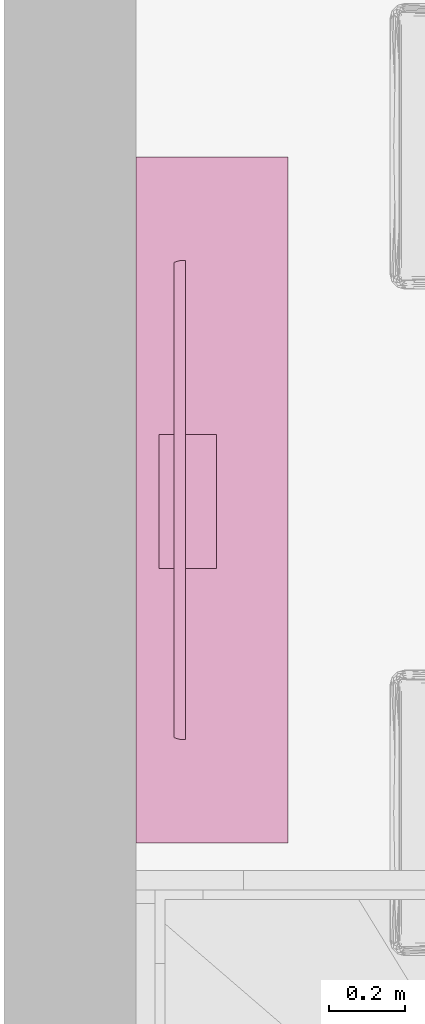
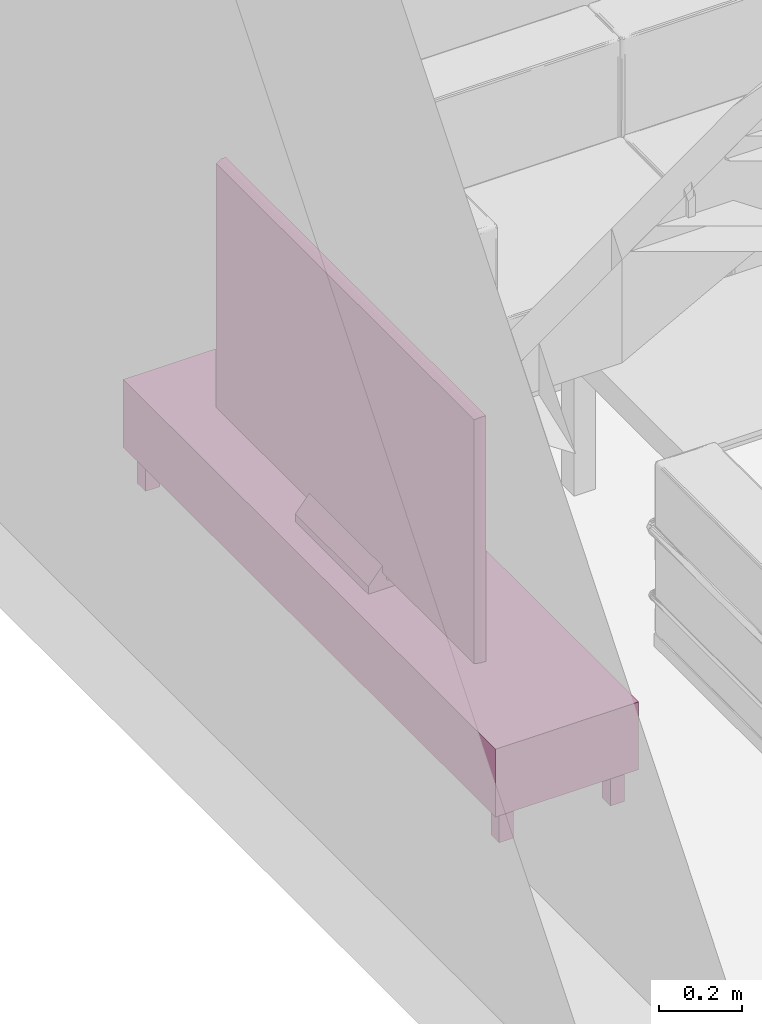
# One storey, part 36 of 65: 1 furnishing.
"""IFC2X3 building model written with IfcOpenShell, lengths in millimetres."""

from ifc_helpers import new_model, entity, si_unit, converted_unit, direction, frame, origin, place, context, subcontext, project, spatial, faceted_brep, source, transform, mapped, material, material_list, type_object, type_shapes, element, save


model = new_model("IFC2X3")

# Units and contexts
model_context = context("Model", 3, precision=0.01, world=origin(), true_north=direction((0.0, 1.0)))
body_context = subcontext(model_context, "Body", "Model", "MODEL_VIEW")
ifc_project = project(units=[si_unit("LENGTHUNIT", "METRE", prefix="MILLI"), si_unit("AREAUNIT", "SQUARE_METRE"), si_unit("VOLUMEUNIT", "CUBIC_METRE"), converted_unit("PLANEANGLEUNIT", "DEGREE", entity("IfcPlaneAngleMeasure", 0.017453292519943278), si_unit("PLANEANGLEUNIT", "RADIAN"), dimensions=[0, 0, 0, 0, 0, 0, 0])], contexts=[model_context])

# Site, building, storey, space
site_placement = place(None, origin())
site = spatial("IfcSite", under=ifc_project, at=site_placement, Name="Default", CompositionType="ELEMENT")
building_placement = place(site_placement, origin())
building = spatial("IfcBuilding", under=site, at=building_placement, CompositionType="ELEMENT")
storey_placement = place(building_placement, origin())
storey = spatial("IfcBuildingStorey", under=building, at=storey_placement, Name="Et. 1", CompositionType="ELEMENT", Elevation=0.0)
space_placement = place(storey_placement, origin())
space = spatial("IfcSpace", under=storey, at=space_placement, Name="101", CompositionType="ELEMENT", InteriorOrExteriorSpace="INTERNAL")

# Furnishing
ifc_material_1 = material(Name="Focus - TV - Sort")
ifc_material_2 = material(Name="Focus - Metall - Krom")
ifc_material_3 = material(Name="Focus - Møbler - Hvit")
ifc_material_list = material_list([ifc_material_1, ifc_material_2, ifc_material_3])
furniture_type = type_object("IfcFurnitureType", Name="TV bord (1):TV bord 1800x400x300", AssemblyPlace="NOTDEFINED", material=ifc_material_list)
shared_shape = source(origin(), body_context, "Body", "Brep", [
    faceted_brep([(535.1044252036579, 528.5550193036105, 322.4792366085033), (535.1044252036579, 526.6842377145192, 323.47298199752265), (535.1044252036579, 525.9363454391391, 325.45490298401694), (535.1044252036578, 525.9363454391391, 370.0), (535.1044252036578, 513.9363454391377, 370.0), (535.1044252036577, 474.47496908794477, 322.83260995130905), (535.1044252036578, 474.47496908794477, 300.0), (535.1044252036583, 625.9363454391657, 300.0), (535.1044252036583, 625.9363454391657, 310.0), (182.12411793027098, 474.47496908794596, 322.83260995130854), (182.12411793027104, 513.9363454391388, 370.0), (182.12411793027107, 525.9363454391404, 370.0), (182.12411793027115, 525.9363454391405, 325.4549029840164), (182.12411793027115, 526.6842377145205, 323.4729819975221), (182.12411793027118, 528.5550193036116, 322.47923660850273), (182.12411793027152, 625.9363454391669, 310.0), (182.12411793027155, 625.9363454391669, 300.0), (182.124117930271, 474.47496908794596, 300.0), (519.984899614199, 525.9363454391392, 325.454902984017), (504.86537605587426, 525.9363454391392, 325.45490298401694), (490.9818870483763, 525.9363454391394, 325.45490298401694), (468.92061695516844, 525.9363454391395, 325.4549029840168), (446.8593468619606, 525.9363454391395, 325.4549029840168), (424.7980767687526, 525.9363454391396, 325.45490298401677), (402.73680870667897, 525.9363454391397, 325.45490298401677), (380.67554064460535, 525.9363454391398, 325.45490298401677), (358.6142705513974, 525.9363454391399, 325.45490298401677), (344.73078154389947, 525.9363454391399, 325.4549029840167), (330.84729050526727, 525.9363454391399, 325.45490298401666), (316.963799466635, 525.9363454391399, 325.45490298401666), (303.0803104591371, 525.93634543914, 325.45490298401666), (287.9607869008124, 525.9363454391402, 325.45490298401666), (272.84126334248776, 525.9363454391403, 325.45490298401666), (257.72173978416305, 525.9363454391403, 325.4549029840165), (242.60221419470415, 525.9363454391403, 325.4549029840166), (227.48268860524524, 525.9363454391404, 325.4549029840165), (212.36316504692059, 525.9363454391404, 325.4549029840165), (197.24364148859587, 525.9363454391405, 325.4549029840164), (197.24364190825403, 528.5550193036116, 322.47923660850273), (212.36316595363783, 528.5550193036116, 322.4792366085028), (227.4826899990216, 528.5550193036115, 322.4792366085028), (242.60221397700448, 528.5550193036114, 322.4792366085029), (257.72173795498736, 528.5550193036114, 322.4792366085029), (272.8412620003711, 528.5550193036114, 322.4792366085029), (287.96078604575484, 528.5550193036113, 322.47923660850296), (303.08031002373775, 528.5550193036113, 322.47923660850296), (318.1998340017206, 528.5550193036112, 322.47923660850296), (333.31935804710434, 528.5550193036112, 322.479236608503), (348.43888209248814, 528.5550193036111, 322.479236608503), (363.558406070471, 528.5550193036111, 322.479236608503), (378.6779300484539, 528.5550193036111, 322.4792366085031), (393.7974540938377, 528.555019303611, 322.47923660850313), (408.9169781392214, 528.555019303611, 322.47923660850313), (424.03650211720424, 528.5550193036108, 322.47923660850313), (437.91999249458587, 528.5550193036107, 322.47923660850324), (451.80348287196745, 528.5550193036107, 322.47923660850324), (465.6869732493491, 528.5550193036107, 322.4792366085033), (479.57046362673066, 528.5550193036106, 322.4792366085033), (493.4539540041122, 528.5550193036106, 322.4792366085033), (507.3374443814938, 528.5550193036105, 322.4792366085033), (519.984901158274, 528.5550193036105, 322.47923660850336), (337.68066245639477, 526.6430406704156, 323.52080028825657), (224.27890068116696, 526.6842377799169, 323.47298192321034), (204.80340727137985, 526.6842378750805, 323.4729818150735), (302.46229687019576, 526.7687345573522, 323.3809061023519), (287.96078948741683, 526.6842377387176, 323.47298197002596), (519.6968558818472, 526.6842377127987, 323.47298199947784), (239.91619314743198, 526.6842377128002, 323.4729819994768), (413.76744661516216, 526.6599675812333, 323.5009060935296), (397.7173638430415, 526.6694903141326, 323.4898666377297), (371.11817041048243, 526.6334825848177, 323.5321906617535), (441.27558772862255, 526.8083203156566, 323.34030867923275), (481.02976280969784, 526.5444504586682, 323.6441466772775), (497.92363261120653, 526.7462141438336, 323.40470179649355), (316.9638042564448, 526.6842377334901, 323.47298197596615), (458.7452292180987, 526.6028547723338, 323.56947960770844), (257.72174274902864, 526.6842376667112, 323.4729820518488), (354.04763371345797, 526.7922136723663, 323.35664204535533), (272.84126613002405, 526.6581872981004, 323.5029820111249)], [[[0, 1, 2, 3, 4, 5, 6, 7, 8]], [[9, 10, 11, 12, 13, 14, 15, 16, 17]], [[4, 3, 11, 10]], [[7, 6, 17, 16]], [[3, 2, 18, 19, 20, 21, 22, 23, 24, 25, 26, 27, 28, 29, 30, 31, 32, 33, 34, 35, 36, 37, 12, 11]], [[5, 4, 10, 9]], [[6, 5, 9, 17]], [[8, 7, 16, 15]], [[0, 8, 15, 14, 38, 39, 40, 41, 42, 43, 44, 45, 46, 47, 48, 49, 50, 51, 52, 53, 54, 55, 56, 57, 58, 59, 60]], [[61, 48, 47]], [[62, 63, 36]], [[30, 64, 65]], [[13, 12, 37]], [[18, 2, 1, 66, 19]], [[34, 67, 35]], [[68, 52, 69]], [[70, 69, 50]], [[68, 23, 71]], [[72, 20, 73]], [[62, 39, 63]], [[19, 73, 20]], [[29, 28, 74, 30]], [[31, 30, 65]], [[75, 56, 55]], [[57, 56, 72, 58]], [[44, 43, 65]], [[42, 41, 76, 43]], [[62, 35, 67]], [[13, 37, 63]], [[66, 1, 0, 60, 59]], [[38, 14, 13]], [[41, 40, 67]], [[67, 34, 76]], [[73, 58, 72]], [[63, 39, 38]], [[63, 38, 13]], [[40, 39, 62]], [[67, 40, 62]], [[72, 21, 20]], [[19, 66, 73]], [[49, 77, 70]], [[75, 55, 71]], [[75, 72, 56]], [[21, 72, 75]], [[75, 22, 21]], [[22, 75, 71]], [[68, 24, 23]], [[54, 53, 71, 55]], [[23, 22, 71]], [[37, 36, 63]], [[69, 24, 68]], [[53, 68, 71]], [[70, 26, 25]], [[49, 70, 50]], [[69, 70, 25]], [[25, 24, 69]], [[50, 69, 52, 51]], [[26, 70, 77]], [[61, 28, 27]], [[77, 48, 61]], [[27, 26, 77]], [[77, 49, 48]], [[68, 53, 52]], [[73, 59, 58]], [[76, 33, 78]], [[65, 43, 78]], [[41, 67, 76]], [[46, 45, 74, 47]], [[62, 36, 35]], [[47, 74, 61]], [[73, 66, 59]], [[77, 61, 27]], [[28, 61, 74]], [[74, 45, 64]], [[33, 32, 31, 78]], [[74, 64, 30]], [[76, 34, 33]], [[45, 44, 64]], [[65, 64, 44]], [[76, 78, 43]], [[65, 78, 31]]]),
    faceted_brep([(-274.1123280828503, 543.9363454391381, 1074.9426906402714), (-254.11232808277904, 543.936345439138, 1054.9426906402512), (-254.11232808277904, 543.936345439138, 370.0), (963.4518429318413, 543.9363454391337, 1054.942690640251), (-274.1123280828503, 543.9363454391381, 350.0), (983.45184293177, 543.9363454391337, 1074.9426906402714), (963.4518429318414, 543.9363454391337, 370.0), (983.45184293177, 543.9363454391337, 350.0), (871.2987961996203, 513.9363454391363, 1069.700820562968), (764.3876072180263, 513.9363454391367, 1069.700820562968), (657.4764182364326, 513.9363454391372, 1069.700820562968), (550.5652415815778, 513.9363454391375, 1069.700820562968), (452.61750258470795, 513.9363454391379, 1069.700820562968), (354.6697512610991, 513.9363454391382, 1069.700820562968), (276.7272251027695, 513.9363454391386, 1069.700820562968), (198.78469894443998, 513.9363454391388, 1069.700820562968), (120.84217278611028, 513.936345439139, 1069.700820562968), (42.8996466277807, 513.9363454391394, 1069.700820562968), (-35.042879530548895, 513.9363454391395, 1069.7008205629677), (-112.98540568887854, 513.9363454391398, 1069.700820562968), (-161.959281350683, 513.93634543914, 1069.700820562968), (-268.870458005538, 513.9363454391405, 1069.7008205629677), (-268.87045800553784, 513.9363454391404, 962.7896420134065), (-268.87045800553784, 513.9363454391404, 855.8784560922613), (-268.87045800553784, 513.9363454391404, 782.864436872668), (-268.87045800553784, 513.9363454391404, 709.850410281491), (-268.87045800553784, 513.9363454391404, 619.8878077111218), (-268.87045800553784, 513.9363454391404, 529.9252051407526), (-268.87045800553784, 513.9363454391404, 456.9111859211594), (-268.870458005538, 513.9363454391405, 350.0), (978.2099728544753, 513.936345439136, 350.0), (978.2099728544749, 513.9363454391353, 456.91117949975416), (978.2099728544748, 513.9363454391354, 563.8223660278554), (978.2099728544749, 513.9363454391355, 670.7335525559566), (978.209972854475, 513.9363454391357, 777.6447320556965), (978.209972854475, 513.9363454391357, 850.658757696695), (978.209972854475, 513.9363454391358, 923.6727763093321), (978.209972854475, 513.936345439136, 1016.245227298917), (978.2099728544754, 513.936345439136, 1069.700820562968), (983.45184293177, 540.9363454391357, 1074.9426906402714), (-274.1123280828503, 540.9363454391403, 1074.9426906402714), (-274.11232808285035, 530.9363454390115, 1074.9426906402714), (-167.20113860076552, 530.9363454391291, 1074.9426906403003), (-72.97496770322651, 530.9363454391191, 1074.942690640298), (27.593712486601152, 530.9363454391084, 1074.9426906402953), (128.16239267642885, 530.9363454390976, 1074.942690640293), (235.07358215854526, 530.9363454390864, 1074.9426906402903), (288.52916869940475, 530.9363454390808, 1074.942690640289), (341.98475524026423, 530.9363454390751, 1074.9426906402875), (448.89592832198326, 530.9363454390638, 1074.942690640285), (555.8071178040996, 530.9363454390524, 1074.942690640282), (662.7183072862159, 530.936345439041, 1074.9426906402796), (769.6294803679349, 530.9363454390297, 1074.9426906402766), (876.5406534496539, 530.9363454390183, 1074.942690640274), (983.45184293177, 530.9363454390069, 1074.9426906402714), (983.45184293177, 540.9363454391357, 350.0), (983.4518429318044, 530.9363454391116, 968.0315073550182), (983.4518429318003, 530.9363454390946, 893.7070161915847), (983.4518429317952, 530.936345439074, 803.0891825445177), (983.4518429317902, 530.9363454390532, 712.4713488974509), (983.451842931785, 530.9363454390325, 621.8535152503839), (983.45184293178, 530.9363454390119, 531.2356744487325), (983.4518429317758, 530.9363454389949, 456.911183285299), (983.45184293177, 530.9363454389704, 350.0), (981.0831520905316, 522.3585671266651, 350.0), (-271.7436372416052, 522.3585671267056, 350.0), (-274.1123280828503, 530.9363454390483, 350.0), (-274.1123280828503, 540.9363454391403, 350.0), (-274.1123280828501, 530.9363454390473, 403.4555910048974), (-274.1123280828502, 530.9363454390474, 498.64897772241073), (-274.11232808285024, 530.9363454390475, 572.973466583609), (-274.11232808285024, 530.9363454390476, 647.2979554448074), (-274.1123280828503, 530.9363454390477, 754.2091446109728), (-274.1123280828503, 530.9363454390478, 861.120326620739), (-274.1123280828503, 530.9363454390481, 968.0315086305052), (-254.11232808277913, 540.9363454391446, 1054.9426906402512), (963.4518429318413, 540.9363454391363, 1054.942690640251), (963.4518429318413, 540.9363454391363, 370.0), (-254.1123280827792, 540.9363454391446, 370.0), (-271.6079802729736, 521.9209899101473, 561.039955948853), (-272.0942324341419, 523.5120302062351, 807.6647388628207), (-271.6838000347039, 522.1649725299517, 1000.2475796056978), (-271.52856035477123, 521.6669815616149, 493.4181930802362), (-271.74968537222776, 522.3781866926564, 731.6126583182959), (-271.4604584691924, 521.4504221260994, 664.869113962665), (-271.64314636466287, 522.0339695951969, 424.4548075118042), (-272.03175870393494, 523.3040303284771, 936.0688543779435), (-271.7208591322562, 522.2847625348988, 871.778613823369), (-271.7425576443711, 522.3550660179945, 1072.5729202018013), (-204.66446821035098, 523.3287969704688, 1072.8695772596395), (-137.47234325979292, 522.5092649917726, 1072.6203800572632), (908.7567322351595, 522.1649725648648, 1072.5141626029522), (833.778825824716, 522.5817361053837, 1072.6426227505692), (-62.80278335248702, 522.0049948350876, 1072.4644995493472), (159.81344423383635, 522.0845569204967, 1072.4892230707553), (226.4217047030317, 521.9934399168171, 1072.4609048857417), (315.25696952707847, 521.9504164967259, 1072.4475115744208), (981.0820724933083, 522.3550660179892, 1072.5729202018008), (80.1835543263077, 522.8422800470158, 1072.7222575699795), (501.59138676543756, 522.559214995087, 1072.6357149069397), (392.4883252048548, 522.952944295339, 1072.7559254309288), (3.928384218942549, 521.850551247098, 1072.4163685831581), (566.2823689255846, 522.2857797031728, 1072.5515358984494), (646.0692239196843, 522.4365461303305, 1072.5980210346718), (710.9320272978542, 522.0760981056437, 1072.4865968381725), (772.290516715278, 522.6133420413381, 1072.6523106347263), (981.0831519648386, 522.3585667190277, 494.0734241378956), (981.2237700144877, 522.8172109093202, 560.7957970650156), (981.2987228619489, 523.0638411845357, 930.8692618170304), (981.2065184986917, 522.7606600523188, 863.377909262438), (981.1904531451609, 522.7080691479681, 998.9721352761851), (980.8231085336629, 521.5238622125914, 630.1745518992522), (981.0101229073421, 522.122416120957, 696.939627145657), (981.0709396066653, 522.318980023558, 422.0367118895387), (981.0159296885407, 522.1411428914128, 798.4273735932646)], [[[0, 1, 2]], [[1, 0, 3]], [[2, 4, 0]], [[5, 3, 0]], [[3, 5, 6]], [[7, 6, 5]], [[6, 7, 4]], [[4, 2, 6]], [[8, 9, 10, 11, 12, 13, 14, 15, 16, 17, 18, 19, 20, 21, 22, 23, 24, 25, 26, 27, 28, 29, 30, 31, 32, 33, 34, 35, 36, 37, 38]], [[39, 5, 0, 40, 41, 42, 43, 44, 45, 46, 47, 48, 49, 50, 51, 52, 53, 54]], [[55, 7, 5, 39, 54, 56, 57, 58, 59, 60, 61, 62, 63]], [[4, 7, 55, 63, 64, 30, 29, 65, 66, 67]], [[40, 0, 4, 67, 66, 68, 69, 70, 71, 72, 73, 74, 41]], [[75, 76, 77, 78]], [[3, 76, 75, 1]], [[2, 1, 75, 78]], [[2, 78, 77, 6]], [[6, 77, 76, 3]], [[69, 79, 71, 70]], [[80, 73, 72]], [[41, 74, 81]], [[82, 28, 27]], [[83, 71, 84]], [[79, 82, 27]], [[82, 85, 28]], [[86, 73, 87]], [[41, 81, 88]], [[72, 83, 80]], [[82, 79, 69]], [[73, 80, 87]], [[81, 21, 88]], [[68, 66, 65]], [[29, 28, 85]], [[82, 69, 85]], [[85, 69, 68]], [[84, 26, 25]], [[68, 65, 85]], [[29, 85, 65]], [[27, 26, 79]], [[79, 26, 84]], [[83, 84, 25]], [[79, 84, 71]], [[83, 24, 80]], [[71, 83, 72]], [[86, 81, 74]], [[87, 80, 23]], [[23, 22, 87]], [[22, 81, 86]], [[24, 83, 25]], [[24, 23, 80]], [[21, 81, 22]], [[73, 86, 74]], [[22, 86, 87]], [[42, 89, 90]], [[54, 53, 91]], [[8, 91, 92]], [[18, 93, 19]], [[46, 45, 94]], [[95, 96, 47]], [[19, 90, 20]], [[54, 91, 97]], [[98, 16, 94]], [[99, 12, 11]], [[99, 49, 100]], [[18, 17, 101]], [[46, 94, 95]], [[18, 101, 93]], [[102, 99, 11]], [[103, 102, 10]], [[52, 51, 104]], [[92, 9, 8]], [[91, 38, 97]], [[21, 20, 89]], [[41, 88, 89]], [[90, 89, 20]], [[43, 42, 90]], [[41, 89, 42]], [[44, 101, 98]], [[101, 43, 93]], [[89, 88, 21]], [[12, 99, 100]], [[96, 100, 48]], [[98, 101, 17]], [[43, 101, 44]], [[16, 15, 94]], [[44, 98, 45]], [[98, 17, 16]], [[43, 90, 93]], [[19, 93, 90]], [[94, 15, 95]], [[98, 94, 45]], [[96, 48, 47]], [[46, 95, 47]], [[95, 15, 14]], [[96, 95, 14]], [[14, 13, 96]], [[100, 96, 13]], [[12, 100, 13]], [[49, 48, 100]], [[10, 104, 103]], [[50, 49, 99]], [[9, 92, 105]], [[9, 104, 10]], [[103, 104, 51]], [[51, 50, 103]], [[102, 50, 99]], [[92, 91, 53]], [[38, 91, 8]], [[53, 52, 92]], [[105, 52, 104]], [[10, 102, 11]], [[103, 50, 102]], [[9, 105, 104]], [[92, 52, 105]], [[106, 61, 107]], [[108, 109, 57]], [[61, 106, 62]], [[108, 110, 36]], [[97, 110, 54]], [[111, 60, 112]], [[97, 38, 37]], [[113, 106, 31]], [[56, 108, 57]], [[109, 108, 36]], [[106, 107, 32]], [[63, 62, 113]], [[30, 64, 113]], [[106, 113, 62]], [[36, 110, 37]], [[32, 31, 106]], [[30, 113, 31]], [[113, 64, 63]], [[108, 56, 110]], [[114, 112, 59]], [[109, 114, 58]], [[36, 35, 109]], [[54, 110, 56]], [[97, 37, 110]], [[114, 35, 34]], [[58, 57, 109]], [[61, 60, 107]], [[112, 33, 111]], [[111, 32, 107]], [[111, 107, 60]], [[112, 60, 59]], [[32, 111, 33]], [[114, 59, 58]], [[34, 33, 112]], [[35, 114, 109]], [[112, 114, 34]]]),
    faceted_brep([(1229.6697574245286, 438.9363454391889, 0.0), (1229.6697574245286, 478.9363454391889, 0.0), (1229.6697574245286, 478.9363454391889, 80.0), (1229.669757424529, 748.9363454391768, 80.0), (1229.669757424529, 748.9363454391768, 0.0), (1229.669757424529, 788.9363454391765, 0.0), (1229.669757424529, 788.9363454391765, 100.0), (1229.6697574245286, 438.9363454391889, 100.0), (1189.6697574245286, 438.936345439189, 0.0), (1189.6697574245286, 438.936345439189, 100.0), (1189.669757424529, 788.9363454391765, 100.0), (1189.669757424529, 788.9363454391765, 0.0), (1189.669757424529, 748.9363454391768, 0.0), (1189.669757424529, 748.9363454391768, 80.0), (1189.6697574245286, 478.936345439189, 80.0), (1189.6697574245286, 478.936345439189, 0.0)], [[[0, 1, 2, 3, 4, 5, 6, 7]], [[8, 9, 10, 11, 12, 13, 14, 15]], [[1, 0, 8, 15]], [[2, 1, 15, 14]], [[3, 2, 14, 13]], [[4, 3, 13, 12]], [[5, 4, 12, 11]], [[6, 5, 11, 10]], [[7, 6, 10, 9]], [[0, 7, 9, 8]]]),
    faceted_brep([(-480.33024257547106, 438.9363454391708, 0.0), (-480.330242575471, 478.93634543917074, 0.0), (-480.330242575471, 478.93634543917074, 80.0), (-480.33024257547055, 748.9363454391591, 80.0), (-480.33024257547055, 748.9363454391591, 0.0), (-480.3302425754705, 788.9363454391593, 0.0), (-480.3302425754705, 788.9363454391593, 100.0), (-480.33024257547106, 438.9363454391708, 100.0), (-520.3302425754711, 438.93634543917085, 0.0), (-520.3302425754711, 438.93634543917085, 100.0), (-520.3302425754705, 788.9363454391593, 100.0), (-520.3302425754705, 788.9363454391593, 0.0), (-520.3302425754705, 748.9363454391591, 0.0), (-520.3302425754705, 748.9363454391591, 80.0), (-520.330242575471, 478.93634543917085, 80.0), (-520.330242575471, 478.93634543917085, 0.0)], [[[0, 1, 2, 3, 4, 5, 6, 7]], [[8, 9, 10, 11, 12, 13, 14, 15]], [[1, 0, 8, 15]], [[2, 1, 15, 14]], [[3, 2, 14, 13]], [[4, 3, 13, 12]], [[5, 4, 12, 11]], [[6, 5, 11, 10]], [[7, 6, 10, 9]], [[0, 7, 9, 8]]]),
    faceted_brep([(1189.6697574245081, 478.9363454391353, 80.0), (-480.3302425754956, 478.9363454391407, 80.0), (-480.3302425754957, 478.9363454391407, 100.0), (1189.6697574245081, 478.9363454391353, 100.0), (1189.669757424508, 438.9363454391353, 80.0), (1189.669757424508, 438.9363454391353, 100.0), (-480.3302425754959, 438.9363454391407, 100.0), (-480.33024257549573, 438.9363454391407, 80.0)], [[[0, 1, 2, 3]], [[4, 5, 6, 7]], [[1, 0, 4, 7]], [[2, 1, 7, 6]], [[3, 2, 6, 5]], [[0, 3, 5, 4]]]),
    faceted_brep([(1189.6697574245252, 788.9363454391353, 80.0), (-480.33024257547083, 788.9363454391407, 80.0), (-480.3302425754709, 788.9363454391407, 100.0), (1189.6697574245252, 788.9363454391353, 100.0), (1189.6697574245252, 748.9363454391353, 80.0), (1189.6697574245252, 748.9363454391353, 100.0), (-480.330242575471, 748.9363454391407, 100.0), (-480.330242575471, 748.9363454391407, 80.0)], [[[0, 1, 2, 3]], [[4, 5, 6, 7]], [[1, 0, 4, 7]], [[2, 1, 7, 6]], [[3, 2, 6, 5]], [[0, 3, 5, 4]]]),
    faceted_brep([(658.003090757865, 813.9363454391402, 150.0), (628.003090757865, 813.9363454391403, 150.0), (628.003090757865, 813.9363454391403, 250.0), (658.003090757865, 813.9363454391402, 250.0), (658.0030907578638, 423.93634543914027, 150.0), (658.0030907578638, 423.93634543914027, 250.0), (628.0030907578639, 423.9363454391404, 250.0), (628.0030907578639, 423.9363454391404, 150.0)], [[[0, 1, 2, 3]], [[4, 5, 6, 7]], [[1, 0, 4, 7]], [[2, 1, 7, 6]], [[3, 2, 6, 5]], [[0, 3, 5, 4]]]),
    faceted_brep([(81.33642409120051, 813.9363454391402, 150.0), (51.33642409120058, 813.9363454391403, 150.0), (51.33642409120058, 813.9363454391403, 250.0), (81.33642409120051, 813.9363454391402, 250.0), (81.33642409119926, 423.93634543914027, 150.0), (81.33642409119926, 423.93634543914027, 250.0), (51.33642409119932, 423.9363454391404, 250.0), (51.33642409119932, 423.9363454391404, 150.0)], [[[0, 1, 2, 3]], [[4, 5, 6, 7]], [[1, 0, 4, 7]], [[2, 1, 7, 6]], [[3, 2, 6, 5]], [[0, 3, 5, 4]]]),
    faceted_brep([(1254.6697574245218, 813.9363454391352, 300.0), (1254.6697574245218, 813.9363454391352, 100.0), (-545.3302425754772, 813.936345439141, 100.0), (-545.3302425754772, 813.936345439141, 300.0), (1204.669757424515, 813.9363454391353, 150.0), (1204.669757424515, 813.9363454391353, 250.0), (-495.33024257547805, 813.9363454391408, 250.0), (-495.33024257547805, 813.9363454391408, 150.0), (1254.6697574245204, 413.9363454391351, 300.0), (-545.3302425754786, 413.93634543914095, 300.0), (-545.3302425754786, 413.93634543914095, 100.0), (1254.6697574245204, 413.9363454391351, 100.0), (1254.6697574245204, 423.93634543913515, 100.0), (-545.3302425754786, 423.93634543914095, 100.0), (-545.3302425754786, 423.93634543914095, 300.0), (1254.6697574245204, 423.93634543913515, 300.0), (1204.6697574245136, 423.9363454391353, 250.0), (-495.3302425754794, 423.93634543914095, 250.0), (-495.3302425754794, 423.93634543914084, 150.0), (1204.6697574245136, 423.9363454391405, 150.0)], [[[0, 1, 2, 3], [4, 5, 6, 7]], [[8, 9, 10, 11]], [[2, 1, 12, 11, 10, 13]], [[0, 3, 14, 9, 8, 15]], [[6, 5, 16, 17]], [[4, 7, 18, 19]], [[1, 0, 15, 8, 11, 12]], [[3, 2, 13, 10, 9, 14]], [[5, 4, 19, 16]], [[7, 6, 17, 18]], [[17, 16, 19, 18]]]),
])
type_shapes(furniture_type, [shared_shape])
furnishing_placement = place(space_placement, frame((10023.073241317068, 17687.91649189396, 0.0), z_axis=(0.0, 0.0, 1.0), x_axis=(0.0, -1.0, 0.0)))
element("IfcFurnishingElement", 1, at=furnishing_placement, inside=space, type_object=furniture_type, material=ifc_material_list, Name="TV bord (1):TV bord 1800x400x300", context=body_context, shape_type="MappedRepresentation", body=[
    mapped(shared_shape, transform((0.0, 0.0, 0.0), scale=1.0)),
])

save(model, "model.ifc")
